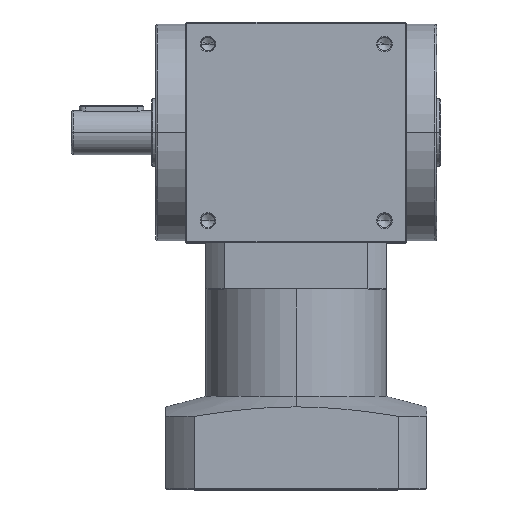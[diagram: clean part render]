
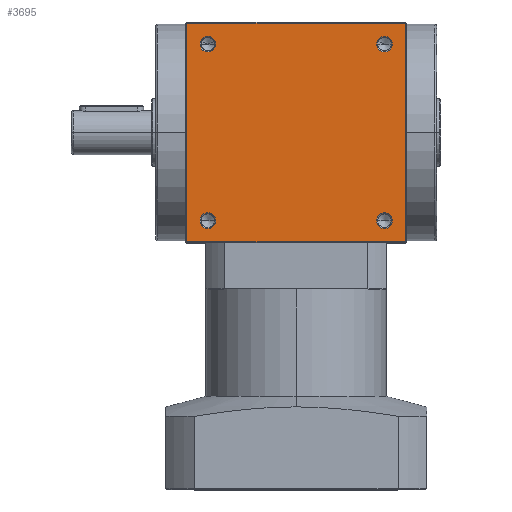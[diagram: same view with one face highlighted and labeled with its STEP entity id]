
A CAD part, top view. The second image highlights one B-rep face of the part: STEP entity #3695.
In plain terms, the highlighted planar face has unit normal (0, 0, 1).
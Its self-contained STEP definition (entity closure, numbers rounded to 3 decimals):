
#20 = DIRECTION ( 'NONE',  ( 0., 0., -1. ) ) ;
#64 = CARTESIAN_POINT ( 'NONE',  ( -54.5, -54.5, 55. ) ) ;
#163 = EDGE_CURVE ( 'NONE', #3477, #7105, #1475, .T. ) ;
#187 = EDGE_LOOP ( 'NONE', ( #8688, #7699 ) ) ;
#206 = CARTESIAN_POINT ( 'NONE',  ( 44., -44., 55. ) ) ;
#208 = CARTESIAN_POINT ( 'NONE',  ( -40.1, -44., 55. ) ) ;
#284 = VERTEX_POINT ( 'NONE', #4565 ) ;
#305 = CARTESIAN_POINT ( 'NONE',  ( 0., 54.5, 55. ) ) ;
#315 = ORIENTED_EDGE ( 'NONE', *, *, #5623, .T. ) ;
#428 = DIRECTION ( 'NONE',  ( -1., 0., 0. ) ) ;
#446 = CARTESIAN_POINT ( 'NONE',  ( -44., 44., 55. ) ) ;
#557 = EDGE_CURVE ( 'NONE', #3429, #574, #1275, .T. ) ;
#574 = VERTEX_POINT ( 'NONE', #1556 ) ;
#591 = VERTEX_POINT ( 'NONE', #8329 ) ;
#699 = VERTEX_POINT ( 'NONE', #1187 ) ;
#742 = ORIENTED_EDGE ( 'NONE', *, *, #2859, .T. ) ;
#870 = CARTESIAN_POINT ( 'NONE',  ( -44., 44., 55. ) ) ;
#957 = VECTOR ( 'NONE', #1241, 1000. ) ;
#996 = AXIS2_PLACEMENT_3D ( 'NONE', #6767, #20, #6124 ) ;
#1013 = EDGE_LOOP ( 'NONE', ( #2631, #315 ) ) ;
#1063 = DIRECTION ( 'NONE',  ( 1., 0., 0. ) ) ;
#1187 = CARTESIAN_POINT ( 'NONE',  ( 54.5, 54.5, 55. ) ) ;
#1241 = DIRECTION ( 'NONE',  ( 0., 1., 0. ) ) ;
#1257 = ORIENTED_EDGE ( 'NONE', *, *, #7684, .T. ) ;
#1275 = CIRCLE ( 'NONE', #5802, 3.9 ) ;
#1357 = FACE_BOUND ( 'NONE', #187, .T. ) ;
#1475 = CIRCLE ( 'NONE', #2695, 3.9 ) ;
#1512 = ORIENTED_EDGE ( 'NONE', *, *, #7317, .T. ) ;
#1556 = CARTESIAN_POINT ( 'NONE',  ( -40.1, 44., 55. ) ) ;
#1899 = VECTOR ( 'NONE', #428, 1000. ) ;
#1994 = CARTESIAN_POINT ( 'NONE',  ( 47.9, -44., 55. ) ) ;
#2040 = EDGE_CURVE ( 'NONE', #5338, #284, #8906, .T. ) ;
#2077 = EDGE_LOOP ( 'NONE', ( #1257, #4696, #1512, #4611 ) ) ;
#2172 = CARTESIAN_POINT ( 'NONE',  ( 44., 44., 55. ) ) ;
#2349 = ORIENTED_EDGE ( 'NONE', *, *, #163, .T. ) ;
#2376 = DIRECTION ( 'NONE',  ( 0., 0., -1. ) ) ;
#2387 = CARTESIAN_POINT ( 'NONE',  ( -54.5, 0., 55. ) ) ;
#2631 = ORIENTED_EDGE ( 'NONE', *, *, #3656, .T. ) ;
#2680 = PLANE ( 'NONE',  #5312 ) ;
#2695 = AXIS2_PLACEMENT_3D ( 'NONE', #206, #8510, #2945 ) ;
#2726 = CARTESIAN_POINT ( 'NONE',  ( 54.5, 0., 55. ) ) ;
#2770 = VERTEX_POINT ( 'NONE', #208 ) ;
#2801 = CARTESIAN_POINT ( 'NONE',  ( -44., -44., 55. ) ) ;
#2859 = EDGE_CURVE ( 'NONE', #7105, #3477, #7616, .T. ) ;
#2935 = CIRCLE ( 'NONE', #6840, 3.9 ) ;
#2945 = DIRECTION ( 'NONE',  ( -1., 0., 0. ) ) ;
#3352 = VERTEX_POINT ( 'NONE', #7264 ) ;
#3419 = DIRECTION ( 'NONE',  ( 0., 0., -1. ) ) ;
#3429 = VERTEX_POINT ( 'NONE', #4575 ) ;
#3477 = VERTEX_POINT ( 'NONE', #1994 ) ;
#3503 = FACE_BOUND ( 'NONE', #1013, .T. ) ;
#3656 = EDGE_CURVE ( 'NONE', #2770, #3724, #4163, .T. ) ;
#3680 = EDGE_CURVE ( 'NONE', #591, #4691, #6926, .T. ) ;
#3687 = DIRECTION ( 'NONE',  ( 0., 0., -1. ) ) ;
#3695 = ADVANCED_FACE ( 'NONE', ( #7265, #6193, #3503, #3833, #1357 ), #2680, .F. ) ;
#3711 = LINE ( 'NONE', #305, #1899 ) ;
#3724 = VERTEX_POINT ( 'NONE', #8320 ) ;
#3833 = FACE_BOUND ( 'NONE', #7352, .T. ) ;
#3973 = LINE ( 'NONE', #2726, #957 ) ;
#4163 = CIRCLE ( 'NONE', #7384, 3.9 ) ;
#4179 = ORIENTED_EDGE ( 'NONE', *, *, #8100, .T. ) ;
#4525 = AXIS2_PLACEMENT_3D ( 'NONE', #446, #8648, #4629 ) ;
#4537 = EDGE_CURVE ( 'NONE', #699, #3352, #3711, .T. ) ;
#4565 = CARTESIAN_POINT ( 'NONE',  ( 54.5, -54.5, 55. ) ) ;
#4575 = CARTESIAN_POINT ( 'NONE',  ( -47.9, 44., 55. ) ) ;
#4611 = ORIENTED_EDGE ( 'NONE', *, *, #4537, .T. ) ;
#4629 = DIRECTION ( 'NONE',  ( -1., 0., 0. ) ) ;
#4691 = VERTEX_POINT ( 'NONE', #4694 ) ;
#4694 = CARTESIAN_POINT ( 'NONE',  ( 40.1, 44., 55. ) ) ;
#4696 = ORIENTED_EDGE ( 'NONE', *, *, #2040, .T. ) ;
#5024 = LINE ( 'NONE', #2387, #5682 ) ;
#5248 = AXIS2_PLACEMENT_3D ( 'NONE', #7259, #2376, #7170 ) ;
#5312 = AXIS2_PLACEMENT_3D ( 'NONE', #7532, #3419, #8228 ) ;
#5338 = VERTEX_POINT ( 'NONE', #64 ) ;
#5344 = CIRCLE ( 'NONE', #7587, 3.9 ) ;
#5491 = DIRECTION ( 'NONE',  ( 0., 0., -1. ) ) ;
#5613 = DIRECTION ( 'NONE',  ( -1., 0., 0. ) ) ;
#5623 = EDGE_CURVE ( 'NONE', #3724, #2770, #2935, .T. ) ;
#5630 = DIRECTION ( 'NONE',  ( -1., 0., 0. ) ) ;
#5681 = DIRECTION ( 'NONE',  ( 0., 0., -1. ) ) ;
#5682 = VECTOR ( 'NONE', #5828, 1000. ) ;
#5747 = ORIENTED_EDGE ( 'NONE', *, *, #3680, .T. ) ;
#5802 = AXIS2_PLACEMENT_3D ( 'NONE', #870, #5681, #5613 ) ;
#5828 = DIRECTION ( 'NONE',  ( 0., -1., 0. ) ) ;
#5941 = DIRECTION ( 'NONE',  ( -1., 0., 0. ) ) ;
#6124 = DIRECTION ( 'NONE',  ( -1., 0., 0. ) ) ;
#6193 = FACE_BOUND ( 'NONE', #7962, .T. ) ;
#6767 = CARTESIAN_POINT ( 'NONE',  ( 44., 44., 55. ) ) ;
#6773 = EDGE_CURVE ( 'NONE', #574, #3429, #6922, .T. ) ;
#6840 = AXIS2_PLACEMENT_3D ( 'NONE', #2801, #7702, #5630 ) ;
#6922 = CIRCLE ( 'NONE', #4525, 3.9 ) ;
#6926 = CIRCLE ( 'NONE', #996, 3.9 ) ;
#7074 = VECTOR ( 'NONE', #1063, 1000. ) ;
#7105 = VERTEX_POINT ( 'NONE', #7825 ) ;
#7170 = DIRECTION ( 'NONE',  ( -1., 0., 0. ) ) ;
#7220 = CARTESIAN_POINT ( 'NONE',  ( 0., -54.5, 55. ) ) ;
#7259 = CARTESIAN_POINT ( 'NONE',  ( 44., -44., 55. ) ) ;
#7264 = CARTESIAN_POINT ( 'NONE',  ( -54.5, 54.5, 55. ) ) ;
#7265 = FACE_OUTER_BOUND ( 'NONE', #2077, .T. ) ;
#7317 = EDGE_CURVE ( 'NONE', #284, #699, #3973, .T. ) ;
#7352 = EDGE_LOOP ( 'NONE', ( #5747, #4179 ) ) ;
#7384 = AXIS2_PLACEMENT_3D ( 'NONE', #8265, #5491, #8851 ) ;
#7532 = CARTESIAN_POINT ( 'NONE',  ( 0., 0., 55. ) ) ;
#7587 = AXIS2_PLACEMENT_3D ( 'NONE', #2172, #3687, #5941 ) ;
#7616 = CIRCLE ( 'NONE', #5248, 3.9 ) ;
#7684 = EDGE_CURVE ( 'NONE', #3352, #5338, #5024, .T. ) ;
#7699 = ORIENTED_EDGE ( 'NONE', *, *, #557, .T. ) ;
#7702 = DIRECTION ( 'NONE',  ( 0., 0., -1. ) ) ;
#7825 = CARTESIAN_POINT ( 'NONE',  ( 40.1, -44., 55. ) ) ;
#7962 = EDGE_LOOP ( 'NONE', ( #2349, #742 ) ) ;
#8100 = EDGE_CURVE ( 'NONE', #4691, #591, #5344, .T. ) ;
#8228 = DIRECTION ( 'NONE',  ( -1., 0., 0. ) ) ;
#8265 = CARTESIAN_POINT ( 'NONE',  ( -44., -44., 55. ) ) ;
#8320 = CARTESIAN_POINT ( 'NONE',  ( -47.9, -44., 55. ) ) ;
#8329 = CARTESIAN_POINT ( 'NONE',  ( 47.9, 44., 55. ) ) ;
#8510 = DIRECTION ( 'NONE',  ( 0., 0., -1. ) ) ;
#8648 = DIRECTION ( 'NONE',  ( 0., 0., -1. ) ) ;
#8688 = ORIENTED_EDGE ( 'NONE', *, *, #6773, .T. ) ;
#8851 = DIRECTION ( 'NONE',  ( -1., 0., 0. ) ) ;
#8906 = LINE ( 'NONE', #7220, #7074 ) ;
